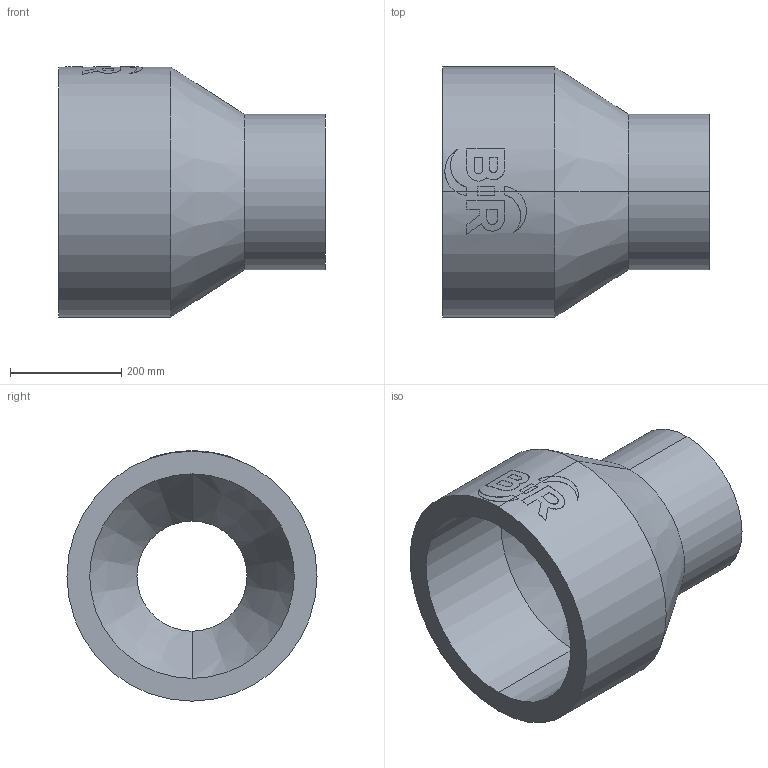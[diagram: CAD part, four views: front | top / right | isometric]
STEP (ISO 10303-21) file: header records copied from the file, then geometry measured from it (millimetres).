
FILE_DESCRIPTION (( 'STEP AP214' ), '1' );
FILE_NAME ('2323262215.STEP', '2018-07-20T11:26:48', ( '' ), ( '' ), 'SwSTEP 2.0', 'SolidWorks 2017', '' );
FILE_SCHEMA (( 'AUTOMOTIVE_DESIGN' ));
Length unit declared in the file: millimetre
Products named in the file (1): 2323262215
Bounding box: 480 x 450 x 450.46 mm (x, y, z)
Volume: 21514201.6 mm3; surface area: 1135755.8 mm2
Topology: 1 solids, 1 shells, 63 faces, 160 edges, 104 vertices
Faces by surface type: cylinder 31, plane 28, cone 4
Entity records: 3488 total; most frequent: CARTESIAN_POINT 1279, ORIENTED_EDGE 320, DIRECTION 296, EDGE_CURVE 160, AXIS2_PLACEMENT_3D 112, VERTEX_POINT 104, VECTOR 72, LINE 72
